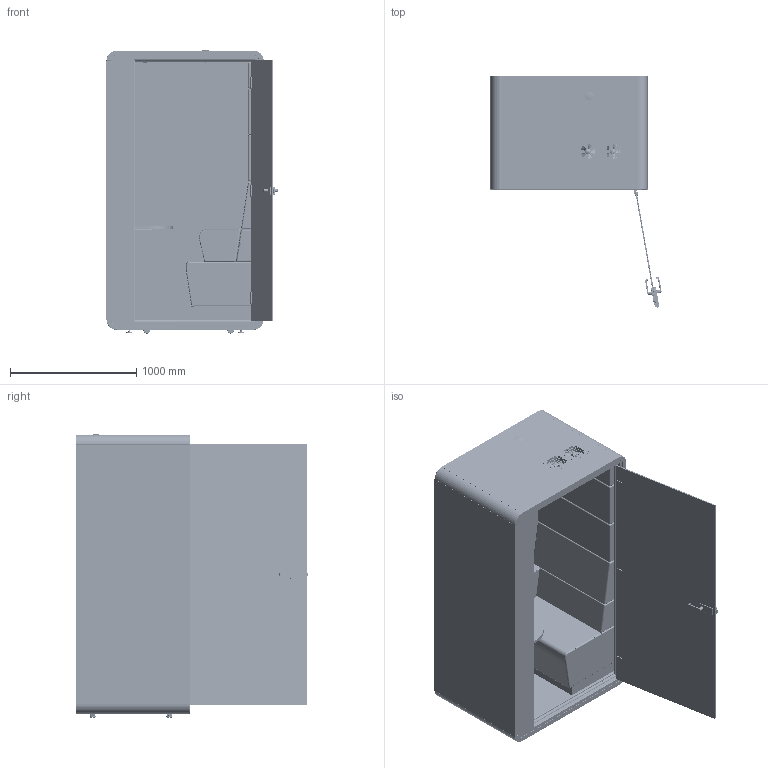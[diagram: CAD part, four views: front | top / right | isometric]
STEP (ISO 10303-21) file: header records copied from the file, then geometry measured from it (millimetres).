
FILE_DESCRIPTION(/* description */ (''),/* implementation_level */ '2;1');
FILE_NAME(/* name */ 'C:\Nextcloud\02_biblioteki_cad\mikomax\Zmiany w modelach 05.05\Eksporty-28-lipca\HUS-BX-220\INCH\HUS-BX-220-inch-close v2.stp',/* time_stamp */ '2022-07-28T17:36:03+02:00',/* author */ ('alane'),/* organization */ (''),/* preprocessor_version */ 'ST-DEVELOPER v18.1',/* originating_system */ 'Autodesk Inventor 2022',/* authorisation */ '');
FILE_SCHEMA (('CONFIG_CONTROL_DESIGN'));
Products named in the file (183): HUS-BX-220-DWG-mm; HUS-BX-220-DWG-mm109; HUS-BX-220-DWG-mm110; HUS-BX-220-DWG-mm120; HUS-BX-220-DWG-mm126; HUS-BX-220-DWG-mm127; HUS-BX-220-DWG-mm128; HUS-BX-220-DWG-mm141; HUS-BX-220-DWG-mm148; HUS-BX-220-DWG-mm149; HUS-BX-220-DWG-mm150; HUS-BX-220-DWG-mm151; HUS-BX-220-DWG-mm152; HUS-BX-220-DWG-mm161; HUS-BX-220-DWG-mm162; HUS-BX-220-DWG-mm163; HUS-BX-220-DWG-mm164; HUS-BX-220-DWG-mm165; HUS-BX-220-DWG-mm166; HUS-BX-220-DWG-mm167; HUS-BX-220-DWG-mm168; HUS-BX-220-DWG-mm184; HUS-BX-220-DWG-mm185; HUS-BX-220-DWG-mm186; HUS-BX-220-DWG-mm187; HUS-BX-220-DWG-mm188; HUS-BX-220-DWG-mm189; HUS-BX-220-DWG-mm190; HUS-BX-220-DWG-mm191; HUS-BX-220-DWG-mm192; HUS-BX-220-DWG-mm193; HUS-BX-220-DWG-mm194; HUS-BX-220-DWG-mm195; HUS-BX-220-DWG-mm196; HUS-BX-220-DWG-mm197; HUS-BX-220-DWG-mm198; HUS-BX-220-DWG-mm199; HUS-BX-220-DWG-mm200; HUS-BX-220-DWG-mm244; HUS-BX-220-DWG-mm245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
Assembly tree (220 placements, depth 4):
  HUS-BX-220-DWG-mm
    HUS-BX-220-DWG-mm109
    HUS-BX-220-DWG-mm110
    HUS-BX-220-DWG-mm120
    HUS-BX-220-DWG-mm126
    HUS-BX-220-DWG-mm127
    HUS-BX-220-DWG-mm128
    HUS-BX-220-DWG-mm141
    HUS-BX-220-DWG-mm148
    HUS-BX-220-DWG-mm149
    HUS-BX-220-DWG-mm150
    HUS-BX-220-DWG-mm151
    HUS-BX-220-DWG-mm152
    HUS-BX-220-DWG-mm161
    HUS-BX-220-DWG-mm162
    HUS-BX-220-DWG-mm163
    HUS-BX-220-DWG-mm164
    HUS-BX-220-DWG-mm165
    HUS-BX-220-DWG-mm166
    HUS-BX-220-DWG-mm167
    HUS-BX-220-DWG-mm168
    HUS-BX-220-DWG-mm184
    HUS-BX-220-DWG-mm185
    HUS-BX-220-DWG-mm186
    HUS-BX-220-DWG-mm187
    HUS-BX-220-DWG-mm188
    HUS-BX-220-DWG-mm189
    HUS-BX-220-DWG-mm190
    HUS-BX-220-DWG-mm191
    HUS-BX-220-DWG-mm192
    HUS-BX-220-DWG-mm193
    HUS-BX-220-DWG-mm194
    HUS-BX-220-DWG-mm195
    HUS-BX-220-DWG-mm196
    HUS-BX-220-DWG-mm197
    HUS-BX-220-DWG-mm198
    HUS-BX-220-DWG-mm199
    HUS-BX-220-DWG-mm200
    HUS-BX-220-DWG-mm244
    HUS-BX-220-DWG-mm245
    HUS-BX-220-DWG-mm246
    HUS-BX-220-DWG-mm247
    HUS-BX-220-DWG-mm248
    HUS-BX-220-DWG-mm249
    HUS-BX-220-DWG-mm250
    HUS-BX-220-DWG-mm251
    HUS-BX-220-DWG-mm252
    HUS-BX-220-DWG-mm253
    HUS-BX-220-DWG-mm254
    HUS-BX-220-DWG-mm255
    HUS-BX-220-DWG-mm256
    HUS-BX-220-DWG-mm257
    HUS-BX-220-DWG-mm258
    HUS-BX-220-DWG-mm259
    HUS-BX-220-DWG-mm260
    HUS-BX-220-DWG-mm261
    HUS-BX-220-DWG-mm262
    HUS-BX-220-DWG-mm263
    HUS-BX-220-DWG-mm264
    HUS-BX-220-DWG-mm265
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Bounding box: 1353.96 x 1837.63 x 2241.1 mm (x, y, z)
Volume: 798925732.5 mm3; surface area: 54608474.8 mm2
Topology: 285 solids, 285 shells, 12109 faces, 31128 edges, 20118 vertices
Faces by surface type: plane 6203, cylinder 3844, bspline 813, cone 760, torus 339, sphere 150
Full cylindrical faces by diameter (mm): 0.25 x14, 0.3 x12, 0.5 x6, 1.104 x1, 2 x125, 2.5 x2, 3 x7, 3.2 x19, 3.242 x2, 3.3 x4, 3.5 x2, 4 x17, 4.134 x9, 4.5 x16, 4.917 x10, 5 x103, 5.134 x3, 5.5 x18, 5.693 x2, 6 x4, 6.3 x8, 6.647 x44, 6.693 x2, 7 x46, 8 x80, 8.376 x8, 8.4 x8, 9 x24, 10 x70, 10.5 x4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
Entity records: 365916 total; most frequent: CARTESIAN_POINT 101998, ORIENTED_EDGE 53376, DIRECTION 51939, EDGE_CURVE 26688, AXIS2_PLACEMENT_3D 17622, VERTEX_POINT 17359, LINE 16695, VECTOR 16695
